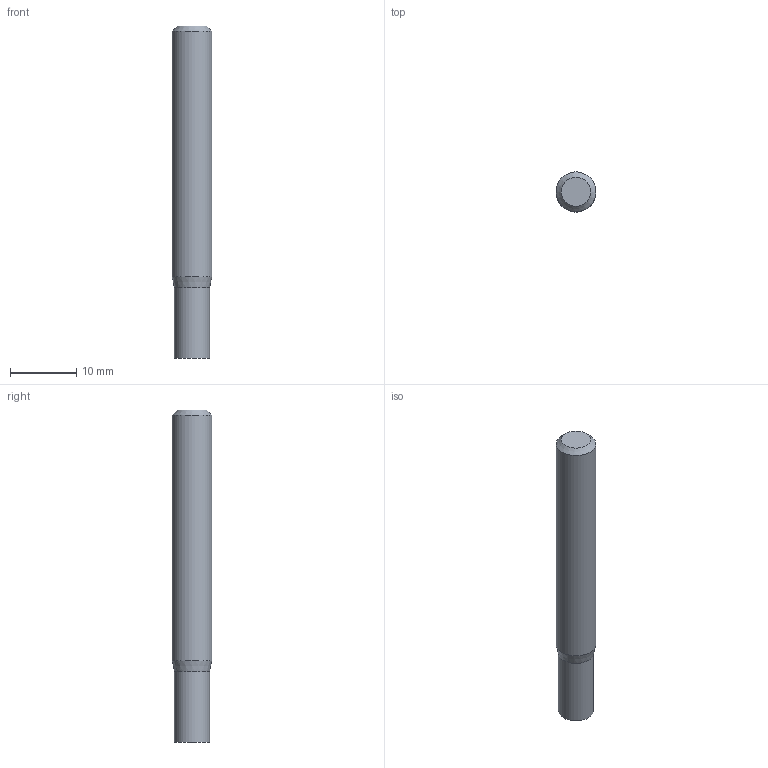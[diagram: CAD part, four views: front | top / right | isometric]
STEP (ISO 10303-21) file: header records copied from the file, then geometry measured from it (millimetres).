
FILE_DESCRIPTION((''),'2;1');
FILE_NAME('C:\Users\nsx150\AppData\Local\Temp\Mastercam 2021\E36A1X9CCL\TEMP.step','2023-04-21T15:13:10',(''),(''),'STEP Write','Mastercam 2021 ... CNC Software, Inc.','');
FILE_SCHEMA(('AUTOMOTIVE_DESIGN'));
Length unit declared in the file: millimetre
Products named in the file (1): None
Bounding box: 6 x 6 x 50 mm (x, y, z)
Volume: 1337.1 mm3; surface area: 1002.8 mm2
Topology: 2 solids, 2 shells, 8 faces, 10 edges, 6 vertices
Faces by surface type: plane 4, cylinder 2, cone 2
Full cylindrical faces by diameter (mm): 5.3 x1, 6 x1
Entity records: 190 total; most frequent: DIRECTION 32, CARTESIAN_POINT 22, AXIS2_PLACEMENT_3D 16, ORIENTED_EDGE 12, EDGE_LOOP 12, STYLED_ITEM 11, ADVANCED_FACE 8, VERTEX_POINT 6
